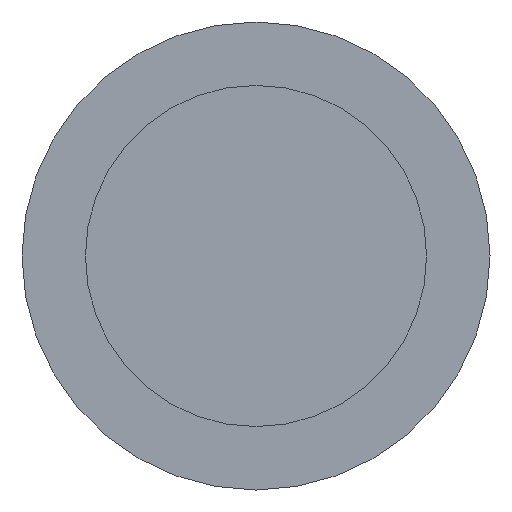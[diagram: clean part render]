
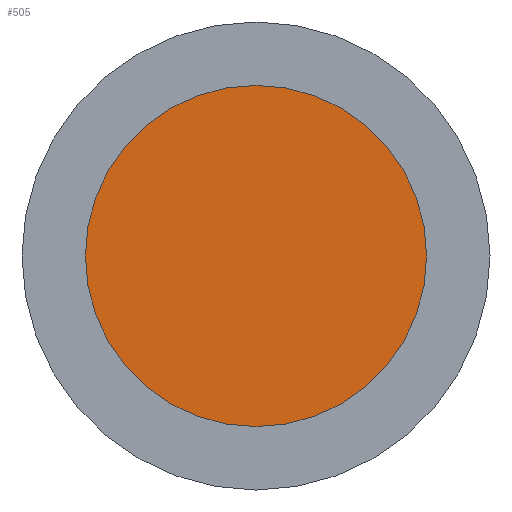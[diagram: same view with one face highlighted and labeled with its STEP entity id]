
A CAD part, left-side view. The second image highlights one B-rep face of the part: STEP entity #505.
In plain terms, the highlighted planar face has unit normal (-1, 0, 0).
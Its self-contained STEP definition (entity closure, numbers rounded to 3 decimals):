
#44 = DIRECTION ( 'NONE',  ( 0., 0., 1. ) ) ;
#45 = DIRECTION ( 'NONE',  ( 1., 0., 0. ) ) ;
#51 = PLANE ( 'NONE',  #457 ) ;
#92 = EDGE_CURVE ( 'NONE', #401, #502, #513, .T. ) ;
#106 = ORIENTED_EDGE ( 'NONE', *, *, #92, .F. ) ;
#123 = CARTESIAN_POINT ( 'NONE',  ( -1.2, 0., -1.75 ) ) ;
#138 = EDGE_LOOP ( 'NONE', ( #106, #168 ) ) ;
#142 = CARTESIAN_POINT ( 'NONE',  ( -1.2, 1.75, 0. ) ) ;
#168 = ORIENTED_EDGE ( 'NONE', *, *, #421, .F. ) ;
#183 = CARTESIAN_POINT ( 'NONE',  ( -1.2, 0., 1.75 ) ) ;
#219 = AXIS2_PLACEMENT_3D ( 'NONE', #289, #45, #390 ) ;
#277 = AXIS2_PLACEMENT_3D ( 'NONE', #374, #320, #473 ) ;
#289 = CARTESIAN_POINT ( 'NONE',  ( -1.2, 0., 0. ) ) ;
#320 = DIRECTION ( 'NONE',  ( 1., 0., 0. ) ) ;
#344 = CIRCLE ( 'NONE', #277, 1.75 ) ;
#374 = CARTESIAN_POINT ( 'NONE',  ( -1.2, 0., 0. ) ) ;
#390 = DIRECTION ( 'NONE',  ( 0., 0., -1. ) ) ;
#401 = VERTEX_POINT ( 'NONE', #123 ) ;
#421 = EDGE_CURVE ( 'NONE', #502, #401, #344, .T. ) ;
#434 = DIRECTION ( 'NONE',  ( -1., 0., 0. ) ) ;
#457 = AXIS2_PLACEMENT_3D ( 'NONE', #142, #434, #44 ) ;
#473 = DIRECTION ( 'NONE',  ( 0., 0., -1. ) ) ;
#502 = VERTEX_POINT ( 'NONE', #183 ) ;
#505 = ADVANCED_FACE ( 'NONE', ( #628 ), #51, .T. ) ;
#513 = CIRCLE ( 'NONE', #219, 1.75 ) ;
#628 = FACE_OUTER_BOUND ( 'NONE', #138, .T. ) ;
